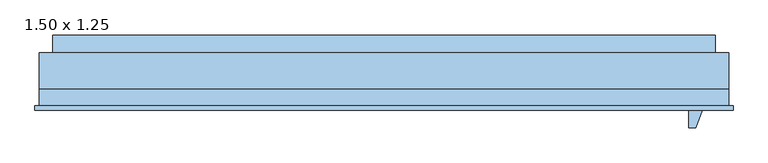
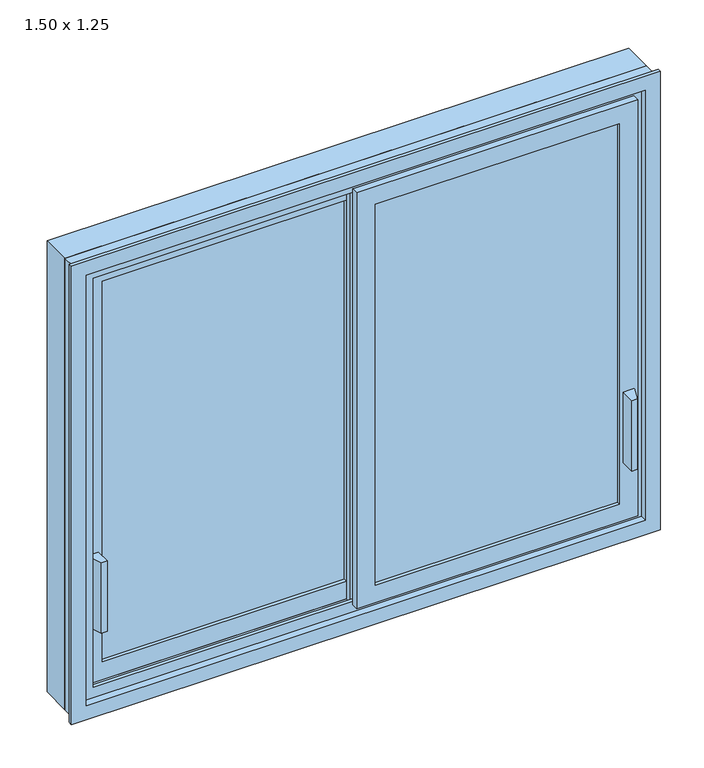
"""IFC4 building model written with IfcOpenShell, lengths in millimetres: window geometry, windowsopening-slidepierretfenetrecoulissante2v : 1.50 x 1.25."""

import ifcopenshell
import ifcopenshell.guid

model = None  # the IFC model being written
_history = None  # IfcOwnerHistory: only IFC2X3 demands one
_inside = {}  # id of a spatial element -> (the spatial element, [elements in it])
_under = {}  # id of a project, library or spatial element -> (it, [spatial elements below it])
_declared = {}  # id of a project -> (the project, [libraries it declares])
_typed = {}  # id of a type object -> (the type object, [elements of that type])
_made_of = {}  # id of a material, layer set ... -> (it, [elements and type objects made of it])


def new_model(schema):
    """Start an empty IFC model of exactly this schema.

    Asked for "IFC4X3", IfcOpenShell would pick the latest addendum, in which some entities
    have other attributes; the version numbers below select the first issue.
    IFC2X3 requires an IfcOwnerHistory on every rooted entity: one is made here for all.
    """
    global model, _history
    if schema == "IFC4X3":
        model = ifcopenshell.file(schema_version=(4, 3, 0, 0))
    else:
        model = ifcopenshell.file(schema=schema)
    _inside.clear()
    _under.clear()
    _declared.clear()
    _typed.clear()
    _made_of.clear()
    _history = None
    if model.schema == "IFC2X3":
        org = make("IfcOrganization", Name="unknown")
        user = make(
            "IfcPersonAndOrganization",
            ThePerson=make("IfcPerson", FamilyName="unknown"),
            TheOrganization=org,
        )
        app = make(
            "IfcApplication",
            ApplicationDeveloper=org,
            Version="unknown",
            ApplicationFullName="unknown",
            ApplicationIdentifier="unknown",
        )
        _history = make(
            "IfcOwnerHistory",
            OwningUser=user,
            OwningApplication=app,
            ChangeAction="ADDED",
            CreationDate=0,
        )
    return model


def make(cls, **values):
    """One entity of the class cls with the attributes given. An attribute that is None is left unset."""
    return model.create_entity(
        cls, **{name: value for name, value in values.items() if value is not None}
    )


def rooted(cls, **values):
    """An entity with a GlobalId (a new one), such as an element, a storey or a relation."""
    return make(cls, GlobalId=ifcopenshell.guid.new(), OwnerHistory=_history, **values)


def si_unit(unit_type, name, prefix=None):
    """IfcSIUnit, for example si_unit("LENGTHUNIT", "METRE", prefix="MILLI")."""
    return make("IfcSIUnit", UnitType=unit_type, Prefix=prefix, Name=name)


def assignment(units):
    """IfcUnitAssignment: the units of a project."""
    return None if units is None else make("IfcUnitAssignment", Units=units)


def point(xyz):
    """IfcCartesianPoint."""
    return None if xyz is None else make("IfcCartesianPoint", Coordinates=xyz)


def direction(xyz):
    """IfcDirection."""
    return None if xyz is None else make("IfcDirection", DirectionRatios=xyz)


def frame(location, z_axis=None, x_axis=None):
    """IfcAxis2Placement3D, a coordinate frame: its origin and axes. An axis left out is left unset."""
    return make(
        "IfcAxis2Placement3D",
        Location=point(location),
        Axis=direction(z_axis),
        RefDirection=direction(x_axis),
    )


def origin():
    """The frame at (0, 0, 0) with its axes left unset."""
    return frame((0.0, 0.0, 0.0))


def place(relative_to, where):
    """IfcLocalPlacement: puts the frame where relative to a parent placement (None: the world)."""
    return make(
        "IfcLocalPlacement", PlacementRelTo=relative_to, RelativePlacement=where
    )


def context(
    kind, dimensions, precision=None, world=None, true_north=None, identifier=None
):
    """IfcGeometricRepresentationContext, for example the 3D "Model" context."""
    return make(
        "IfcGeometricRepresentationContext",
        ContextIdentifier=identifier,
        ContextType=kind,
        CoordinateSpaceDimension=dimensions,
        Precision=precision,
        WorldCoordinateSystem=world,
        TrueNorth=true_north,
    )


def project(units=None, contexts=None):
    """IfcProject with its units and contexts."""
    return rooted(
        "IfcProject",
        Name="project",
        RepresentationContexts=contexts,
        UnitsInContext=assignment(units),
    )


def spatial(cls, under=None, at=None, **own):
    """A site, building, storey or space (cls), placed at a placement, below another one or the project."""
    s = rooted(cls, ObjectPlacement=at, **own)
    if under is not None:
        _under.setdefault(under.id(), (under, []))[1].append(s)
    return s


def polyline(points):
    """IfcPolyline through the points."""
    return make("IfcPolyline", Points=[point(p) for p in points])


def outline(outer, holes=None, kind="AREA"):
    """IfcArbitraryClosedProfileDef: a profile drawn as a closed curve; with holes, ...WithVoids."""
    if holes is None:
        return make("IfcArbitraryClosedProfileDef", ProfileType=kind, OuterCurve=outer)
    return make(
        "IfcArbitraryProfileDefWithVoids",
        ProfileType=kind,
        OuterCurve=outer,
        InnerCurves=holes,
    )


def extrude(swept, where, along, depth):
    """IfcExtrudedAreaSolid: the profile swept, set in the frame where, extruded along a direction by depth."""
    return make(
        "IfcExtrudedAreaSolid",
        SweptArea=swept,
        Position=where,
        ExtrudedDirection=direction(along),
        Depth=depth,
    )


def faces_of(points, faces, orient=None, outer=None):
    """IfcFace entities. A face is a list of loops; a loop is a list of indices into points, from 0.

    orient and outer hold one flag for each loop. By default every Orientation is true, the
    first loop of a face is its IfcFaceOuterBound and the others are IfcFaceBound.
    """
    made = []
    for i, loops in enumerate(faces):
        bounds = []
        for j, loop in enumerate(loops):
            is_outer = j == 0 if outer is None else outer[i][j]
            bounds.append(
                make(
                    "IfcFaceOuterBound" if is_outer else "IfcFaceBound",
                    Bound=make("IfcPolyLoop", Polygon=[points[k] for k in loop]),
                    Orientation=True if orient is None else orient[i][j],
                )
            )
        made.append(make("IfcFace", Bounds=bounds))
    return made


def faceted_brep(points, faces, orient=None, outer=None, voids=None):
    """IfcFacetedBrep: a solid bounded by flat faces; with voids (closed shells), ...WithVoids."""
    shared = [point(p) for p in points]
    hull = make("IfcClosedShell", CfsFaces=faces_of(shared, faces, orient, outer))
    if voids is None:
        return make("IfcFacetedBrep", Outer=hull)
    return make(
        "IfcFacetedBrepWithVoids",
        Outer=hull,
        Voids=[
            make(cls, CfsFaces=faces_of(shared, fs, o, b)) for cls, fs, o, b in voids
        ],
    )


def shape(context_of_items, identifier, shape_type, items):
    """IfcShapeRepresentation: the items that make up one representation, for example the "Body"."""
    return make(
        "IfcShapeRepresentation",
        ContextOfItems=context_of_items,
        RepresentationIdentifier=identifier,
        RepresentationType=shape_type,
        Items=items,
    )


def source(mapping_origin, context_of_items, identifier, shape_type, items):
    """IfcRepresentationMap: a shape defined once, which mapped items show again and again."""
    return make(
        "IfcRepresentationMap",
        MappingOrigin=mapping_origin,
        MappedRepresentation=shape(context_of_items, identifier, shape_type, items),
    )


def transform(
    local_origin,
    x_axis=None,
    y_axis=None,
    z_axis=None,
    scale=None,
    scale2=None,
    scale3=None,
    uniform=True,
):
    """IfcCartesianTransformationOperator3D, or its non-uniform kind. x_axis, y_axis, z_axis: its Axis1, 2, 3."""
    if uniform:
        return make(
            "IfcCartesianTransformationOperator3D",
            Axis1=direction(x_axis),
            Axis2=direction(y_axis),
            LocalOrigin=point(local_origin),
            Scale=scale,
            Axis3=direction(z_axis),
        )
    return make(
        "IfcCartesianTransformationOperator3DnonUniform",
        Axis1=direction(x_axis),
        Axis2=direction(y_axis),
        LocalOrigin=point(local_origin),
        Scale=scale,
        Axis3=direction(z_axis),
        Scale2=scale2,
        Scale3=scale3,
    )


def mapped(mapping_source, mapping_target):
    """IfcMappedItem: shows the shape of a source again, moved by a transform."""
    return make(
        "IfcMappedItem", MappingSource=mapping_source, MappingTarget=mapping_target
    )


def made_of(thing, what):
    """Note that an element or type object is made of a material, layer set ...; save() writes the relation."""
    if what is not None:
        _made_of.setdefault(what.id(), (what, []))[1].append(thing)
    return thing


def element(
    cls,
    number,
    at=None,
    inside=None,
    cuts=None,
    type_object=None,
    material=None,
    context=None,
    identifier="Body",
    shape_type=None,
    held_by="IfcProductDefinitionShape",
    body=None,
    shapes=None,
    **own,
):
    """One element of the class cls, such as IfcWall. Its Tag is "e" and its number.

    at: its placement. inside: the storey or other place that contains it. cuts: it is an
    opening in that element (IfcRelVoidsElement). A single representation is given by context,
    identifier, shape_type and body (its items); several are given by shapes. held_by: the class
    of the entity that holds the representations. save() writes the other relations.
    """
    e = rooted(cls, Tag="e%d" % number, ObjectPlacement=at, **own)
    if body is not None:
        shapes = [shape(context, identifier, shape_type, body)]
    if shapes is not None:
        e.Representation = make(held_by, Representations=shapes)
    if inside is not None:
        _inside.setdefault(inside.id(), (inside, []))[1].append(e)
    if cuts is not None:
        rooted(
            "IfcRelVoidsElement", RelatingBuildingElement=cuts, RelatedOpeningElement=e
        )
    if type_object is not None:
        _typed.setdefault(type_object.id(), (type_object, []))[1].append(e)
    return made_of(e, material)


def aggregate(whole, parts):
    """IfcRelAggregates: a whole, such as a stair, and the parts it consists of."""
    return rooted("IfcRelAggregates", RelatingObject=whole, RelatedObjects=parts)


def save(model, path):
    """Write the relations noted so far, then the file.

    IfcRelAggregates (storeys below a building ...), IfcRelContainedInSpatialStructure (elements
    in a storey), IfcRelDefinesByType, IfcRelAssociatesMaterial and IfcRelDeclares: one each for
    every whole, place, type object, material and project.
    """
    for whole, parts in _under.values():
        aggregate(whole, parts)
    for where, things in _inside.values():
        rooted(
            "IfcRelContainedInSpatialStructure",
            RelatedElements=things,
            RelatingStructure=where,
        )
    for kind, things in _typed.values():
        rooted("IfcRelDefinesByType", RelatedObjects=things, RelatingType=kind)
    for what, things in _made_of.values():
        rooted("IfcRelAssociatesMaterial", RelatedObjects=things, RelatingMaterial=what)
    for by, libraries in _declared.values():
        rooted("IfcRelDeclares", RelatingContext=by, RelatedDefinitions=libraries)
    model.write(path)


def window_1_50_x_1_25_927f365b(model_context):
    return source(origin(), model_context, "Body", "SolidModel", [
        extrude(outline(polyline([(-690.0, -132.0), (-690.0, -172.0), (-705.0, -172.0), (-720.0, -132.0), (-690.0, -132.0)])), frame((0.0, 0.0, 1215.0), z_axis=(0.0, 0.0, 1.0), x_axis=(1.0, 0.0, 0.0)), (0.0, 0.0, 1.0), 200.0),
        extrude(outline(polyline([(-13.0, -98.0), (-692.0, -98.0), (-692.0, -94.0), (-13.0, -94.0), (-13.0, -98.0)])), frame((0.0, 0.0, 1088.0), z_axis=(0.0, 0.0, 1.0), x_axis=(1.0, 0.0, 0.0)), (0.0, 0.0, 1.0), 1104.0),
        extrude(outline(polyline([(-692.0, -122.0), (-692.0, -116.0), (-13.0, -116.0), (-13.0, -122.0), (-692.0, -122.0)])), frame((0.0, 0.0, 1088.0), z_axis=(0.0, 0.0, 1.0), x_axis=(1.0, 0.0, 0.0)), (0.0, 0.0, 1.0), 1104.0),
        extrude(outline(polyline([(1088.0, -692.0), (1088.0, -13.0), (2192.0, -13.0), (2192.0, -692.0), (1088.0, -692.0)]), holes=[polyline([(1100.0, -25.0), (1100.0, -680.0), (2180.0, -680.0), (2180.0, -25.0), (1100.0, -25.0)])]), frame((0.0, -116.0, 0.0), z_axis=(0.0, 1.0, 0.0), x_axis=(0.0, 0.0, 1.0)), (0.0, 0.0, 1.0), 18.0),
        extrude(outline(polyline([(1080.0, -700.0), (1080.0, -5.0), (2200.0, -5.0), (2200.0, -700.0), (1080.0, -700.0)]), holes=[polyline([(1088.0, -13.0), (1088.0, -692.0), (2192.0, -692.0), (2192.0, -13.0), (1088.0, -13.0)])]), frame((0.0, -122.0, 0.0), z_axis=(0.0, 1.0, 0.0), x_axis=(0.0, 0.0, 1.0)), (0.0, 0.0, 1.0), 28.0),
        faceted_brep([(-5.0, -108.0, 2200.0), (-5.0, -108.0, 1080.0), (-5.0, -122.0, 1080.0), (-5.0, -122.0, 2200.0), (-700.0, -108.0, 1080.0), (-700.0, -122.0, 1080.0), (-700.0, -122.0, 2200.0), (-680.0, -122.0, 1100.0), (-25.0, -122.0, 1100.0), (-25.0, -122.0, 2180.0), (-680.0, -122.0, 2180.0), (-700.0, -108.0, 2200.0), (15.0, -108.0, 1060.0), (-720.0, -108.0, 1060.0), (-720.0, -108.0, 2220.0), (15.0, -108.0, 2220.0), (15.0, -113.0, 2220.0), (15.0, -113.0, 1060.0), (-720.0, -113.0, 1060.0), (-720.0, -113.0, 2220.0), (25.0, -113.0, 1050.0), (-730.0, -113.0, 1050.0), (-730.0, -113.0, 2230.0), (25.0, -113.0, 2230.0), (25.0, -132.0, 2230.0), (25.0, -132.0, 1050.0), (-730.0, -132.0, 1050.0), (-730.0, -132.0, 2230.0), (-25.0, -132.0, 1100.0), (-680.0, -132.0, 1100.0), (-680.0, -132.0, 2180.0), (-25.0, -132.0, 2180.0)], [[[0, 1, 2, 3]], [[1, 4, 5, 2]], [[2, 5, 6, 3], [7, 8, 9, 10]], [[4, 11, 6, 5]], [[12, 13, 14, 15], [4, 1, 0, 11]], [[16, 17, 12, 15]], [[17, 18, 13, 12]], [[18, 19, 14, 13]], [[20, 21, 22, 23], [18, 17, 16, 19]], [[24, 25, 20, 23]], [[25, 26, 21, 20]], [[26, 27, 22, 21]], [[26, 25, 24, 27], [28, 29, 30, 31]], [[8, 7, 29, 28]], [[7, 10, 30, 29]], [[10, 9, 31, 30]], [[11, 0, 3, 6]], [[19, 16, 15, 14]], [[27, 24, 23, 22]], [[9, 8, 28, 31]]]),
        faceted_brep([(25.0, -103.0, 2230.0), (25.0, -103.0, 1050.0), (25.0, -84.0, 1050.0), (25.0, -84.0, 2230.0), (-730.0, -103.0, 1050.0), (-730.0, -84.0, 1050.0), (-730.0, -84.0, 2230.0), (-680.0, -84.0, 1100.0), (-25.0, -84.0, 1100.0), (-25.0, -84.0, 2180.0), (-680.0, -84.0, 2180.0), (-730.0, -103.0, 2230.0), (15.0, -103.0, 1060.0), (-720.0, -103.0, 1060.0), (-720.0, -103.0, 2220.0), (15.0, -103.0, 2220.0), (15.0, -108.0, 2220.0), (15.0, -108.0, 1060.0), (-720.0, -108.0, 1060.0), (-720.0, -108.0, 2220.0), (-5.0, -108.0, 1080.0), (-700.0, -108.0, 1080.0), (-700.0, -108.0, 2200.0), (-5.0, -108.0, 2200.0), (-5.0, -94.0, 2200.0), (-5.0, -94.0, 1080.0), (-700.0, -94.0, 1080.0), (-700.0, -94.0, 2200.0), (-25.0, -94.0, 1100.0), (-680.0, -94.0, 1100.0), (-680.0, -94.0, 2180.0), (-25.0, -94.0, 2180.0)], [[[0, 1, 2, 3]], [[1, 4, 5, 2]], [[2, 5, 6, 3], [7, 8, 9, 10]], [[4, 11, 6, 5]], [[4, 1, 0, 11], [12, 13, 14, 15]], [[16, 17, 12, 15]], [[17, 18, 13, 12]], [[18, 19, 14, 13]], [[18, 17, 16, 19], [20, 21, 22, 23]], [[24, 25, 20, 23]], [[25, 26, 21, 20]], [[26, 27, 22, 21]], [[26, 25, 24, 27], [28, 29, 30, 31]], [[8, 7, 29, 28]], [[7, 10, 30, 29]], [[11, 0, 3, 6]], [[19, 16, 15, 14]], [[27, 24, 23, 22]], [[10, 9, 31, 30]], [[9, 8, 28, 31]]]),
        extrude(outline(polyline([(690.0, -180.0), (720.0, -180.0), (705.0, -220.0), (690.0, -220.0), (690.0, -180.0)])), frame((0.0, 0.0, 1215.0), z_axis=(0.0, 0.0, 1.0), x_axis=(1.0, 0.0, 0.0)), (0.0, 0.0, 1.0), 200.0),
        extrude(outline(polyline([(13.0, -146.0), (13.0, -142.0), (692.0, -142.0), (692.0, -146.0), (13.0, -146.0)])), frame((0.0, 0.0, 1088.0), z_axis=(0.0, 0.0, 1.0), x_axis=(1.0, 0.0, 0.0)), (0.0, 0.0, 1.0), 1104.0),
        extrude(outline(polyline([(692.0, -170.0), (13.0, -170.0), (13.0, -164.0), (692.0, -164.0), (692.0, -170.0)])), frame((0.0, 0.0, 1088.0), z_axis=(0.0, 0.0, 1.0), x_axis=(1.0, 0.0, 0.0)), (0.0, 0.0, 1.0), 1104.0),
        extrude(outline(polyline([(1088.0, 692.0), (2192.0, 692.0), (2192.0, 13.0), (1088.0, 13.0), (1088.0, 692.0)]), holes=[polyline([(1100.0, 25.0), (2180.0, 25.0), (2180.0, 680.0), (1100.0, 680.0), (1100.0, 25.0)])]), frame((0.0, -164.0, 0.0), z_axis=(0.0, 1.0, 0.0), x_axis=(0.0, 0.0, 1.0)), (0.0, 0.0, 1.0), 18.0),
        extrude(outline(polyline([(1080.0, 700.0), (2200.0, 700.0), (2200.0, 5.0), (1080.0, 5.0), (1080.0, 700.0)]), holes=[polyline([(1088.0, 13.0), (2192.0, 13.0), (2192.0, 692.0), (1088.0, 692.0), (1088.0, 13.0)])]), frame((0.0, -170.0, 0.0), z_axis=(0.0, 1.0, 0.0), x_axis=(0.0, 0.0, 1.0)), (0.0, 0.0, 1.0), 28.0),
        faceted_brep([(5.0, -156.0, 2200.0), (5.0, -170.0, 2200.0), (5.0, -170.0, 1080.0), (5.0, -156.0, 1080.0), (700.0, -170.0, 1080.0), (700.0, -156.0, 1080.0), (700.0, -170.0, 2200.0), (680.0, -170.0, 1100.0), (680.0, -170.0, 2180.0), (25.0, -170.0, 2180.0), (25.0, -170.0, 1100.0), (700.0, -156.0, 2200.0), (-15.0, -156.0, 1060.0), (-15.0, -156.0, 2220.0), (720.0, -156.0, 2220.0), (720.0, -156.0, 1060.0), (-15.0, -161.0, 2220.0), (-15.0, -161.0, 1060.0), (720.0, -161.0, 1060.0), (720.0, -161.0, 2220.0), (-25.0, -161.0, 1050.0), (-25.0, -161.0, 2230.0), (730.0, -161.0, 2230.0), (730.0, -161.0, 1050.0), (-25.0, -180.0, 2230.0), (-25.0, -180.0, 1050.0), (730.0, -180.0, 1050.0), (730.0, -180.0, 2230.0), (25.0, -180.0, 1100.0), (25.0, -180.0, 2180.0), (680.0, -180.0, 2180.0), (680.0, -180.0, 1100.0)], [[[0, 1, 2, 3]], [[3, 2, 4, 5]], [[2, 1, 6, 4], [7, 8, 9, 10]], [[5, 4, 6, 11]], [[12, 13, 14, 15], [5, 11, 0, 3]], [[16, 13, 12, 17]], [[17, 12, 15, 18]], [[18, 15, 14, 19]], [[20, 21, 22, 23], [18, 19, 16, 17]], [[24, 21, 20, 25]], [[25, 20, 23, 26]], [[26, 23, 22, 27]], [[26, 27, 24, 25], [28, 29, 30, 31]], [[10, 28, 31, 7]], [[7, 31, 30, 8]], [[8, 30, 29, 9]], [[11, 6, 1, 0]], [[19, 14, 13, 16]], [[27, 22, 21, 24]], [[9, 29, 28, 10]]]),
        faceted_brep([(-25.0, -151.0, 2230.0), (-25.0, -132.0, 2230.0), (-25.0, -132.0, 1050.0), (-25.0, -151.0, 1050.0), (730.0, -132.0, 1050.0), (730.0, -151.0, 1050.0), (730.0, -132.0, 2230.0), (680.0, -132.0, 1100.0), (680.0, -132.0, 2180.0), (25.0, -132.0, 2180.0), (25.0, -132.0, 1100.0), (730.0, -151.0, 2230.0), (-15.0, -151.0, 1060.0), (-15.0, -151.0, 2220.0), (720.0, -151.0, 2220.0), (720.0, -151.0, 1060.0), (-15.0, -156.0, 2220.0), (-15.0, -156.0, 1060.0), (720.0, -156.0, 1060.0), (720.0, -156.0, 2220.0), (5.0, -156.0, 1080.0), (5.0, -156.0, 2200.0), (700.0, -156.0, 2200.0), (700.0, -156.0, 1080.0), (5.0, -142.0, 2200.0), (5.0, -142.0, 1080.0), (700.0, -142.0, 1080.0), (700.0, -142.0, 2200.0), (25.0, -142.0, 1100.0), (25.0, -142.0, 2180.0), (680.0, -142.0, 2180.0), (680.0, -142.0, 1100.0)], [[[0, 1, 2, 3]], [[3, 2, 4, 5]], [[2, 1, 6, 4], [7, 8, 9, 10]], [[5, 4, 6, 11]], [[5, 11, 0, 3], [12, 13, 14, 15]], [[16, 13, 12, 17]], [[17, 12, 15, 18]], [[18, 15, 14, 19]], [[18, 19, 16, 17], [20, 21, 22, 23]], [[24, 21, 20, 25]], [[25, 20, 23, 26]], [[26, 23, 22, 27]], [[26, 27, 24, 25], [28, 29, 30, 31]], [[10, 28, 31, 7]], [[7, 31, 30, 8]], [[11, 6, 1, 0]], [[19, 14, 13, 16]], [[27, 22, 21, 24]], [[8, 30, 29, 9]], [[9, 29, 28, 10]]]),
        faceted_brep([(-750.0, -132.0, 2250.0), (-750.0, -103.0, 2250.0), (-750.0, -103.0, 1030.0), (-750.0, -132.0, 1030.0), (750.0, -103.0, 1030.0), (750.0, -132.0, 1030.0), (750.0, -103.0, 2250.0), (720.0, -103.0, 1060.0), (720.0, -103.0, 2220.0), (-720.0, -103.0, 2220.0), (-720.0, -103.0, 1060.0), (750.0, -132.0, 2250.0), (-730.0, -132.0, 1050.0), (-730.0, -132.0, 2230.0), (730.0, -132.0, 2230.0), (730.0, -132.0, 1050.0), (-730.0, -113.0, 2230.0), (-730.0, -113.0, 1050.0), (730.0, -113.0, 1050.0), (730.0, -113.0, 2230.0), (-720.0, -113.0, 1060.0), (-720.0, -113.0, 2220.0), (720.0, -113.0, 2220.0), (720.0, -113.0, 1060.0)], [[[0, 1, 2, 3]], [[3, 2, 4, 5]], [[2, 1, 6, 4], [7, 8, 9, 10]], [[5, 4, 6, 11]], [[5, 11, 0, 3], [12, 13, 14, 15]], [[16, 13, 12, 17]], [[17, 12, 15, 18]], [[18, 15, 14, 19]], [[18, 19, 16, 17], [20, 21, 22, 23]], [[9, 21, 20, 10]], [[10, 20, 23, 7]], [[7, 23, 22, 8]], [[11, 6, 1, 0]], [[19, 14, 13, 16]], [[8, 22, 21, 9]]]),
        faceted_brep([(-730.0, -132.0, 2230.0), (-730.0, -151.0, 2230.0), (-730.0, -151.0, 1050.0), (-730.0, -132.0, 1050.0), (730.0, -151.0, 1050.0), (730.0, -132.0, 1050.0), (750.0, -161.0, 1030.0), (750.0, -161.0, 2250.0), (-750.0, -161.0, 2250.0), (-750.0, -161.0, 1030.0), (-720.0, -161.0, 1060.0), (-720.0, -161.0, 2220.0), (720.0, -161.0, 2220.0), (720.0, -161.0, 1060.0), (730.0, -151.0, 2230.0), (730.0, -132.0, 2230.0), (-750.0, -132.0, 2250.0), (-750.0, -132.0, 1030.0), (750.0, -132.0, 1030.0), (750.0, -132.0, 2250.0), (720.0, -151.0, 1060.0), (720.0, -151.0, 2220.0), (-720.0, -151.0, 2220.0), (-720.0, -151.0, 1060.0)], [[[0, 1, 2, 3]], [[3, 2, 4, 5]], [[6, 7, 8, 9], [10, 11, 12, 13]], [[5, 4, 14, 15]], [[15, 14, 1, 0]], [[8, 16, 17, 9]], [[9, 17, 18, 6]], [[17, 16, 19, 18], [5, 15, 0, 3]], [[6, 18, 19, 7]], [[2, 1, 14, 4], [20, 21, 22, 23]], [[22, 11, 10, 23]], [[20, 13, 12, 21]], [[23, 10, 13, 20]], [[7, 19, 16, 8]], [[21, 12, 11, 22]]]),
        extrude(outline(polyline([(750.0, -110.0), (750.0, -132.0), (-750.0, -132.0), (-750.0, -110.0), (750.0, -110.0)])), frame((0.0, 0.0, 1000.0), z_axis=(0.0, 0.0, 1.0), x_axis=(1.0, 0.0, 0.0)), (0.0, 0.0, 1.0), 30.0),
        extrude(outline(polyline([(1000.0, 750.0), (1000.0, 780.0), (2280.0, 780.0), (2280.0, -780.0), (1000.0, -780.0), (1000.0, -750.0), (2250.0, -750.0), (2250.0, 750.0), (1000.0, 750.0)])), frame((0.0, -132.0, 0.0), z_axis=(0.0, 1.0, 0.0), x_axis=(0.0, 0.0, 1.0)), (0.0, 0.0, 1.0), 82.0),
        faceted_brep([(-780.0, -170.0, 2280.0), (-780.0, -132.0, 2280.0), (-780.0, -132.0, 1000.0), (-780.0, -170.0, 1000.0), (780.0, -132.0, 1000.0), (780.0, -170.0, 1000.0), (780.0, -132.0, 2280.0), (750.0, -132.0, 1030.0), (750.0, -132.0, 2250.0), (-750.0, -132.0, 2250.0), (-750.0, -132.0, 1030.0), (780.0, -170.0, 2280.0), (-790.0, -170.0, 990.0), (-790.0, -170.0, 2290.0), (790.0, -170.0, 2290.0), (790.0, -170.0, 990.0), (-790.0, -180.0, 2290.0), (-790.0, -180.0, 990.0), (790.0, -180.0, 990.0), (790.0, -180.0, 2290.0), (-750.0, -180.0, 1030.0), (-750.0, -180.0, 2250.0), (750.0, -180.0, 2250.0), (750.0, -180.0, 1030.0)], [[[0, 1, 2, 3]], [[3, 2, 4, 5]], [[2, 1, 6, 4], [7, 8, 9, 10]], [[5, 4, 6, 11]], [[12, 13, 14, 15], [5, 11, 0, 3]], [[16, 13, 12, 17]], [[17, 12, 15, 18]], [[18, 15, 14, 19]], [[18, 19, 16, 17], [20, 21, 22, 23]], [[9, 21, 20, 10]], [[10, 20, 23, 7]], [[7, 23, 22, 8]], [[11, 6, 1, 0]], [[19, 14, 13, 16]], [[8, 22, 21, 9]]]),
        extrude(outline(polyline([(-10.0, 1010.0), (-10.0, 1000.0), (-110.0, 1000.0), (-110.0, 1015.0), (-10.0, 1010.0)])), frame((-750.0, 0.0, 0.0), z_axis=(1.0, 0.0, 0.0), x_axis=(0.0, 1.0, 0.0)), (0.0, 0.0, 1.0), 1500.0),
    ])


if __name__ == "__main__":
    model = new_model("IFC4")
    model_context = context("Model", 3, world=origin())
    ifc_project = project(units=[si_unit("LENGTHUNIT", "METRE", prefix="MILLI")], contexts=[model_context])
    site = spatial("IfcSite", under=ifc_project)
    building = spatial("IfcBuilding", under=site)
    placement = place(None, origin())
    window_1_50_x_1_25_shape = window_1_50_x_1_25_927f365b(model_context)
    element("IfcWindow", 1, ObjectType="windowsopening-slidepierretfenetrecoulissante2v : 1.50 x 1.25", at=placement, inside=building, context=model_context, shape_type="MappedRepresentation", body=[
        mapped(window_1_50_x_1_25_shape, transform((0.0, 0.0, 0.0), x_axis=(1.0, 0.0, 0.0), y_axis=(0.0, 1.0, 0.0), z_axis=(0.0, 0.0, 1.0))),
    ])
    save(model, "model.ifc")
